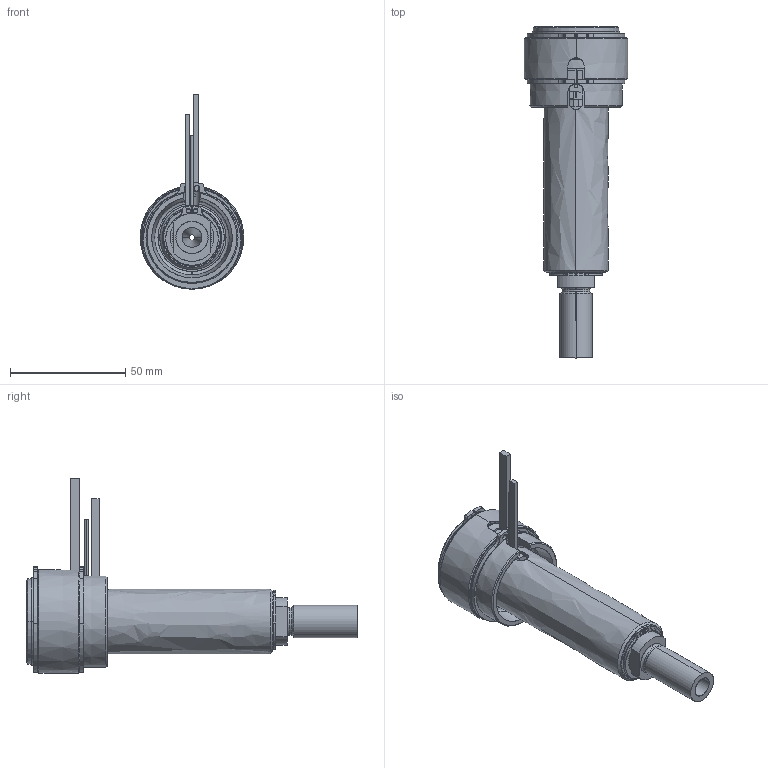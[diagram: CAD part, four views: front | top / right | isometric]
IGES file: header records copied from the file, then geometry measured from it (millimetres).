
Start section: SolidWorks IGES file using analytic representation for surfaces
Global section: file name: C:\Documents and Settings\ws-20\Desktop\TEM\UGBE4502-M-A-P-5 [Ød-2.5 P-25 ØC-10].IGS; native system: SolidWorks 2012; preprocessor: SolidWorks 2012; author: ws-20; date: 120412.154435; units: millimetre
Bounding box: 45 x 144.25 x 84.5 mm (x, y, z)
Surface area: 47797 mm2 (no closed solid volume)
Topology: 0 solids, 0 shells, 165 faces, 3133 edges, 3133 vertices
Faces by surface type: revolution 99, bspline 66
